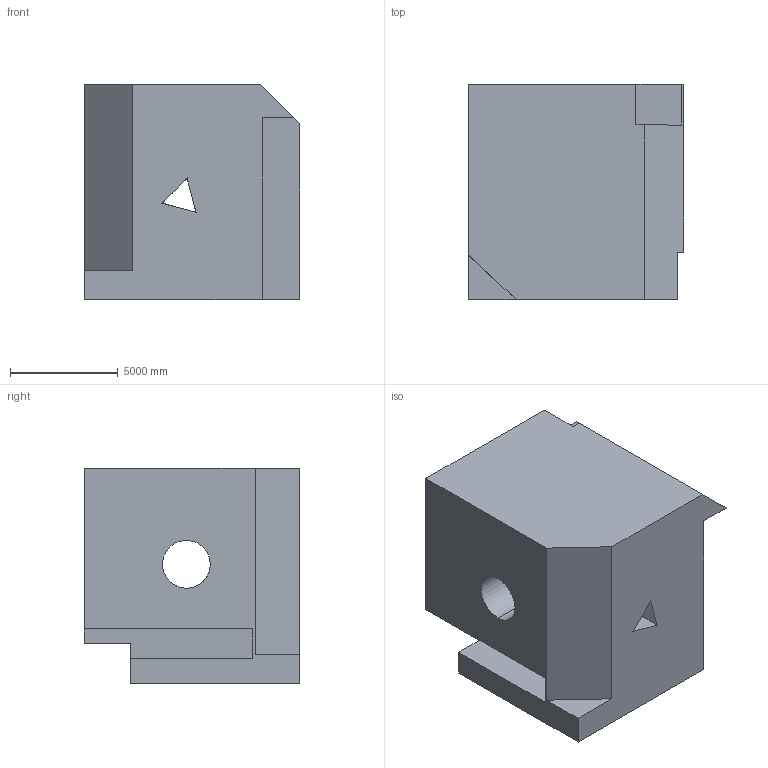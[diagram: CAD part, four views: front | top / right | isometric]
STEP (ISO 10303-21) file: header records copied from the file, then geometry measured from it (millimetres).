
FILE_DESCRIPTION (( 'STEP AP203' ), '1' );
FILE_NAME ('842.STEP', '2022-07-29T13:38:12', ( 'user' ), ( '' ), 'SwSTEP 2.0', 'SolidWorks 2021', '' );
FILE_SCHEMA (( 'CONFIG_CONTROL_DESIGN' ));
Length unit declared in the file: centimetre
Products named in the file (1): 842
Bounding box: 10000 x 10000 x 10000 mm (x, y, z)
Volume: 810120324382.2 mm3; surface area: 695081293.6 mm2
Topology: 1 solids, 1 shells, 31 faces, 93 edges, 62 vertices
Faces by surface type: plane 27, cylinder 4
Entity records: 1124 total; most frequent: CARTESIAN_POINT 205, ORIENTED_EDGE 186, DIRECTION 159, EDGE_CURVE 93, LINE 79, VECTOR 79, VERTEX_POINT 62, AXIS2_PLACEMENT_3D 40
